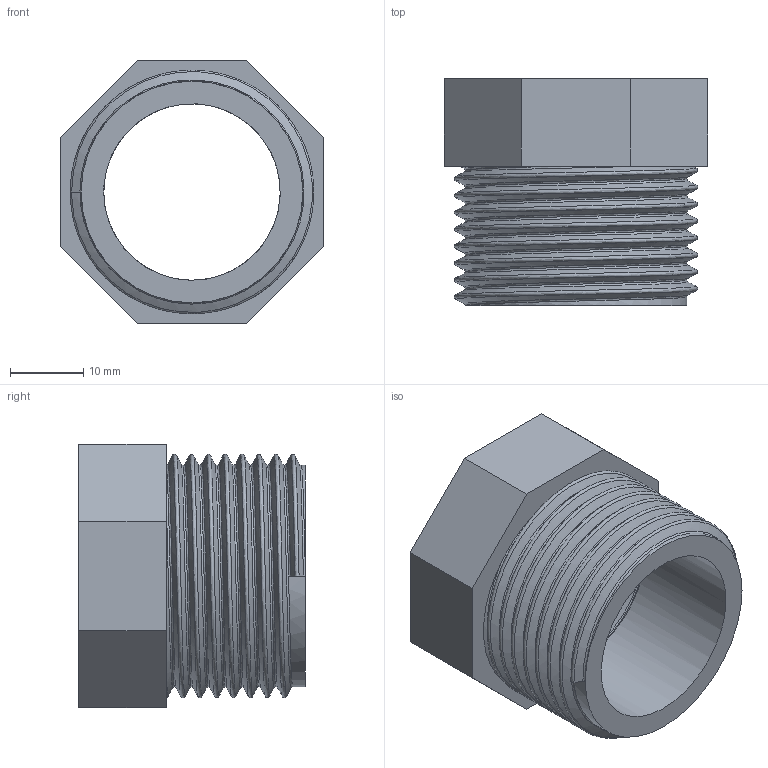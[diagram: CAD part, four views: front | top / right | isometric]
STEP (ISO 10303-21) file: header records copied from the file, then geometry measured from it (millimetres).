
FILE_DESCRIPTION(/* description */ ('PVC riduzione filettata BSP maschio-femmina'),/* implementation_level */ '2;1');
FILE_NAME(/* name */ 'C:\Users\POLYPIPE\Desktop\DATASET INVENTOR\LIBRERIA EFFAST\RACCORDI 3DxWEB\RER\3D_RERRCE\3D_RERRCE032C.stp',/* time_stamp */ '2018-01-19T16:58:04+01:00',/* author */ ('POLYPIPE'),/* organization */ ('Polypipe Italia s.r.l.'),/* preprocessor_version */ 'ST-DEVELOPER v16.1',/* originating_system */ 'Autodesk Inventor 2016',/* authorisation */ '');
FILE_SCHEMA (('CONFIG_CONTROL_DESIGN'));
Length unit declared in the file: millimetre
Products named in the file (1): 3D_RERRCE
Bounding box: 36 x 31 x 36 mm (x, y, z)
Volume: 13015.5 mm3; surface area: 8981.5 mm2
Topology: 1 solids, 1 shells, 25 faces, 62 edges, 40 vertices
Faces by surface type: plane 13, bspline 10, cylinder 2
Full cylindrical faces by diameter (mm): 24.117 x1, 30.291 x1
Entity records: 7144 total; most frequent: CARTESIAN_POINT 6597, ORIENTED_EDGE 120, DIRECTION 78, EDGE_CURVE 60, VERTEX_POINT 39, LINE 30, VECTOR 30, EDGE_LOOP 29
